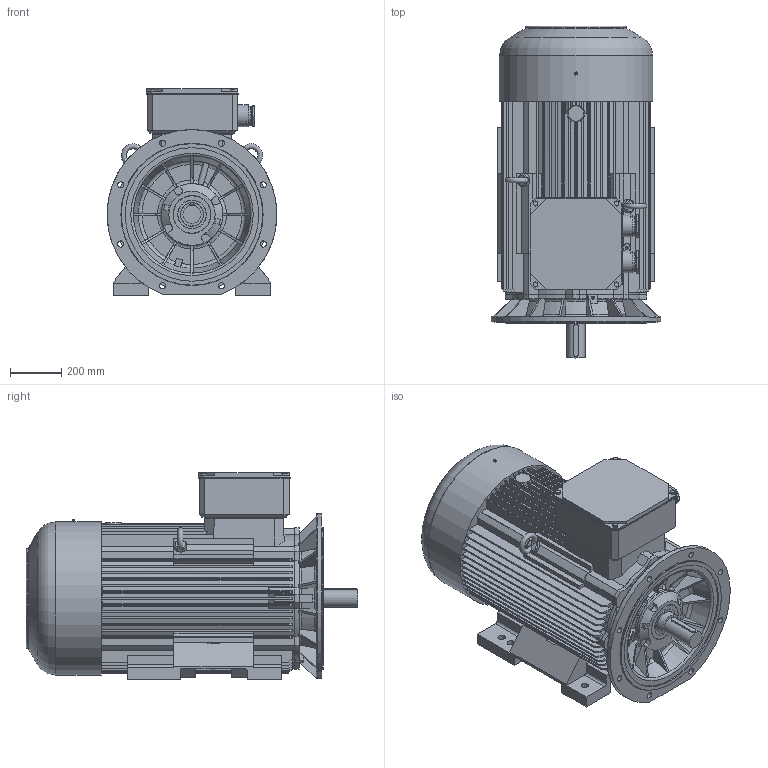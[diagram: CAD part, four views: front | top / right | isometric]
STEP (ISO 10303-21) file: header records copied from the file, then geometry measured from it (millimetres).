
FILE_DESCRIPTION( ( 'Unknown' ), '1' );
FILE_NAME( 'C:/Documents and Settings/kwalica/Pulpit/2,3 SIE paczka/3SIE 315/STP/3SIEL315M2C.stp', 'Unknown', ( 'Unknown' ), ( 'Unknown' ), 'XStep 1.0', 'Unknown', ' ' );
FILE_SCHEMA( ( 'CONFIG_CONTROL_DESIGN' ) );
Length unit declared in the file: millimetre
Products named in the file (6): 1; 2; 3; 4; 5; 6
Bounding box: 660 x 1290 x 804.5 mm (x, y, z)
Volume: 289314815.9 mm3; surface area: 7493405.7 mm2
Topology: 6 solids, 22 shells, 1424 faces, 3900 edges, 2575 vertices
Faces by surface type: plane 890, cylinder 296, cone 117, torus 105, bspline 16
Full cylindrical faces by diameter (mm): 1.6 x2, 5 x4, 10.106 x4, 13.835 x1, 16.63 x4, 24 x12, 28 x6, 50 x2, 55 x2, 57 x4, 65 x4, 70 x3, 71 x6, 72 x2, 72.752 x2, 76 x2, 85 x2, 89.5 x1, 90 x1, 99.4 x1, 100 x1, 111.399 x1, 112 x1, 119.4 x1, 119.999 x1, 131.399 x1, 132 x1, 139.4 x1, 139.999 x1, 147 x1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
Entity records: 53934 total; most frequent: CARTESIAN_POINT 18529, ORIENTED_EDGE 7384, DIRECTION 7062, EDGE_CURVE 3692, VERTEX_POINT 2502, AXIS2_PLACEMENT_3D 2421, LINE 2220, VECTOR 2220
